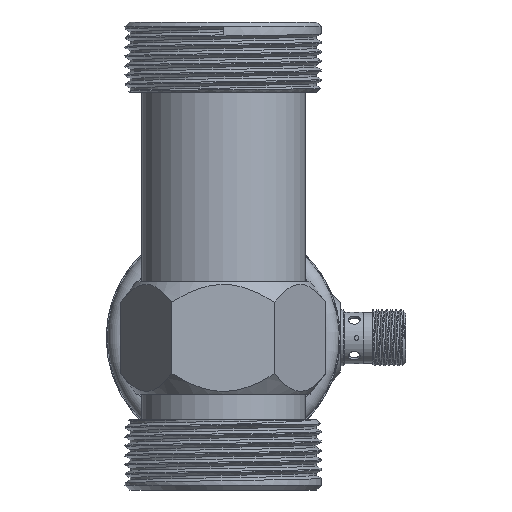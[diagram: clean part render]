
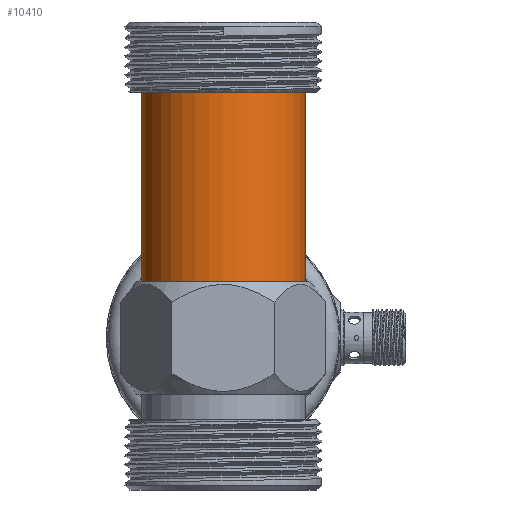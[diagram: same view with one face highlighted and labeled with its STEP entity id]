
A CAD part, front view. The second image highlights one B-rep face of the part: STEP entity #10410.
In plain terms, the highlighted cylindrical face has radius 17.5 mm (diameter 35 mm), a full revolution.
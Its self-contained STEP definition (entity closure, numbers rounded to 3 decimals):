
#106 = CARTESIAN_POINT ( 'NONE',  ( 17.5, 0., 35. ) ) ;
#1399 = DIRECTION ( 'NONE',  ( 1., 0., 0. ) ) ;
#2296 = CYLINDRICAL_SURFACE ( 'NONE', #23856, 17.5 ) ;
#2712 = CIRCLE ( 'NONE', #16567, 17.5 ) ;
#2861 = EDGE_CURVE ( 'NONE', #20554, #20554, #23422, .T. ) ;
#4462 = DIRECTION ( 'NONE',  ( -1., 0., 0. ) ) ;
#5470 = CARTESIAN_POINT ( 'NONE',  ( 0., 0., 35. ) ) ;
#5596 = EDGE_CURVE ( 'NONE', #23671, #23671, #2712, .T. ) ;
#7478 = DIRECTION ( 'NONE',  ( 1., 0., 0. ) ) ;
#7499 = DIRECTION ( 'NONE',  ( 0., 0., 1. ) ) ;
#8781 = FACE_OUTER_BOUND ( 'NONE', #22596, .T. ) ;
#10030 = AXIS2_PLACEMENT_3D ( 'NONE', #5470, #7499, #1399 ) ;
#10410 = ADVANCED_FACE ( 'NONE', ( #14346, #8781 ), #2296, .T. ) ;
#10428 = DIRECTION ( 'NONE',  ( 0., 0., -1. ) ) ;
#10737 = EDGE_LOOP ( 'NONE', ( #11108 ) ) ;
#11108 = ORIENTED_EDGE ( 'NONE', *, *, #5596, .T. ) ;
#14346 = FACE_OUTER_BOUND ( 'NONE', #10737, .T. ) ;
#16567 = AXIS2_PLACEMENT_3D ( 'NONE', #19905, #26027, #7478 ) ;
#19905 = CARTESIAN_POINT ( 'NONE',  ( 0., 0., -5.5 ) ) ;
#20554 = VERTEX_POINT ( 'NONE', #106 ) ;
#21083 = CARTESIAN_POINT ( 'NONE',  ( 0., 0., 50. ) ) ;
#21117 = ORIENTED_EDGE ( 'NONE', *, *, #2861, .F. ) ;
#22596 = EDGE_LOOP ( 'NONE', ( #21117 ) ) ;
#23131 = CARTESIAN_POINT ( 'NONE',  ( 17.5, 0., -5.5 ) ) ;
#23422 = CIRCLE ( 'NONE', #10030, 17.5 ) ;
#23671 = VERTEX_POINT ( 'NONE', #23131 ) ;
#23856 = AXIS2_PLACEMENT_3D ( 'NONE', #21083, #10428, #4462 ) ;
#26027 = DIRECTION ( 'NONE',  ( 0., 0., 1. ) ) ;
